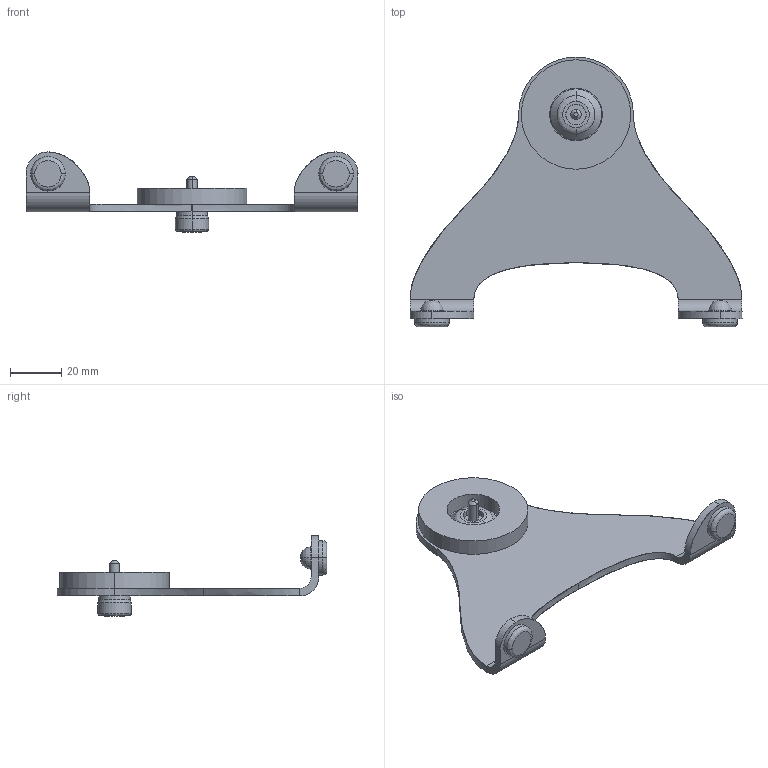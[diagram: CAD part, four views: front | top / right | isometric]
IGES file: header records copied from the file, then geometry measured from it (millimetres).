
Start section:  PTC IGES file: bkt_desktop_9901.igs
Global section: file name: bkt_desktop_9901.igs; native system: Pro/ENGINEER by Parametric Technology Corporation; preprocessor: 2006080; author: chrisj; organization: Unknown; date: 070201.090315; units: inch
Bounding box: 130 x 105.67 x 31.38 mm (x, y, z)
Surface area: 18914.1 mm2 (no closed solid volume)
Topology: 0 solids, 0 shells, 153 faces, 674 edges, 674 vertices
Faces by surface type: revolution 89, bspline 56, extrusion 8
